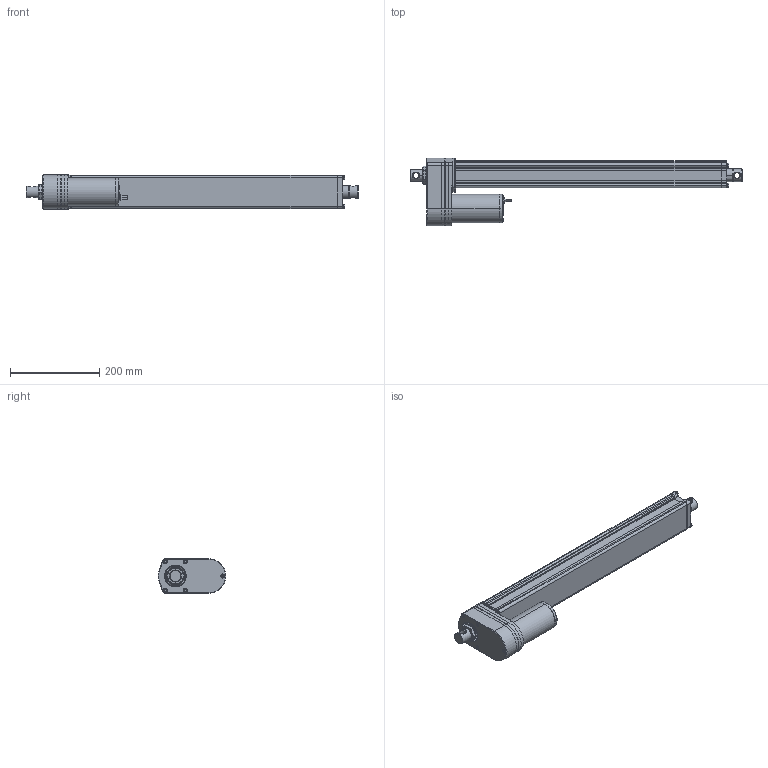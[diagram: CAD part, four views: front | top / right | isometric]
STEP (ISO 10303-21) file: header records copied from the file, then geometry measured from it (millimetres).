
FILE_DESCRIPTION((''),' ');
FILE_NAME('dszy13-450_std.stp',' ',('MSW'),('MSW'),' ','ACIS 14.0',' ');
FILE_SCHEMA(('automotive_design'));
Length unit declared in the file: inch
Products named in the file (2): dszy13-450_std
Bounding box: 744 x 151.7 x 77.2 mm (x, y, z)
Volume: 3202408.2 mm3; surface area: 388766.2 mm2
Topology: 2 solids, 2 shells, 1648 faces, 4015 edges, 2386 vertices
Faces by surface type: plane 1316, cylinder 218, cone 60, torus 30, bspline 24
Entity records: 60917 total; most frequent: CARTESIAN_POINT 8562, DIRECTION 8537, ORIENTED_EDGE 7982, EDGE_CURVE 3991, AXIS2_PLACEMENT_3D 2962, LINE 2613, VECTOR 2613, VERTEX_POINT 2386
